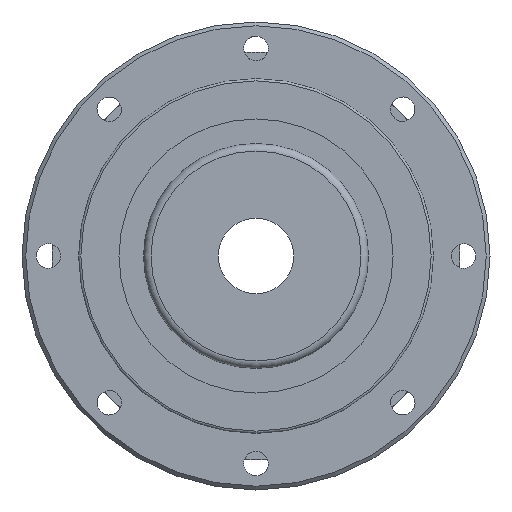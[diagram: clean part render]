
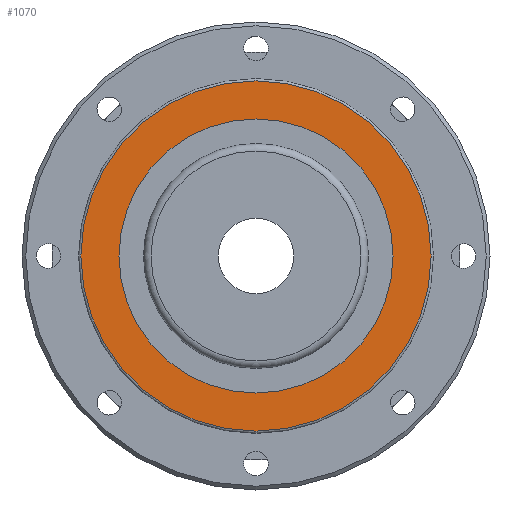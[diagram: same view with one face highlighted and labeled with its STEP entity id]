
A CAD part, left-side view. The second image highlights one B-rep face of the part: STEP entity #1070.
In plain terms, the highlighted planar face has unit normal (-1, 0, 0).
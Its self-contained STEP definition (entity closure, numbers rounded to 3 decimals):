
#154=ORIENTED_EDGE('',*,*,#311,.T.);
#155=ORIENTED_EDGE('',*,*,#310,.F.);
#310=EDGE_CURVE('',#379,#379,#452,.T.);
#311=EDGE_CURVE('',#380,#380,#453,.T.);
#379=VERTEX_POINT('',#1705);
#380=VERTEX_POINT('',#1708);
#452=CIRCLE('',#1177,18.16);
#453=CIRCLE('',#1179,23.2);
#512=EDGE_LOOP('',(#154));
#513=EDGE_LOOP('',(#155));
#606=FACE_BOUND('',#512,.T.);
#607=FACE_BOUND('',#513,.T.);
#680=PLANE('',#1178);
#1070=ADVANCED_FACE('',(#606,#607),#680,.T.);
#1177=AXIS2_PLACEMENT_3D('',#1704,#1381,#1382);
#1178=AXIS2_PLACEMENT_3D('',#1706,#1383,#1384);
#1179=AXIS2_PLACEMENT_3D('',#1707,#1385,#1386);
#1381=DIRECTION('',(-1.,0.,0.));
#1382=DIRECTION('',(0.,0.,1.));
#1383=DIRECTION('',(-1.,0.,0.));
#1384=DIRECTION('',(0.,0.,1.));
#1385=DIRECTION('',(-1.,0.,0.));
#1386=DIRECTION('',(0.,0.,1.));
#1704=CARTESIAN_POINT('',(2.8,0.,0.));
#1705=CARTESIAN_POINT('',(2.8,0.,18.16));
#1706=CARTESIAN_POINT('',(2.8,0.,18.16));
#1707=CARTESIAN_POINT('',(2.8,0.,0.));
#1708=CARTESIAN_POINT('',(2.8,0.,23.2));
